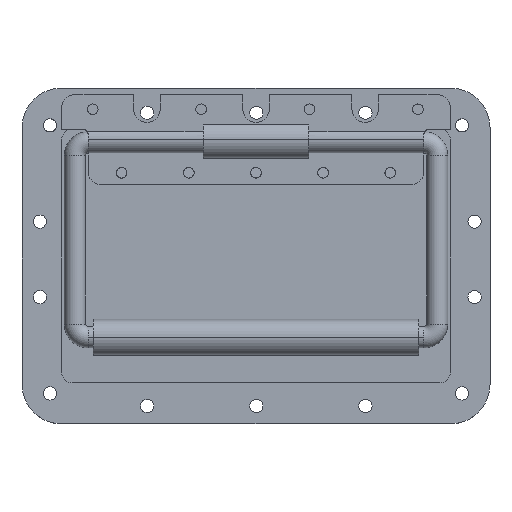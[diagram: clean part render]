
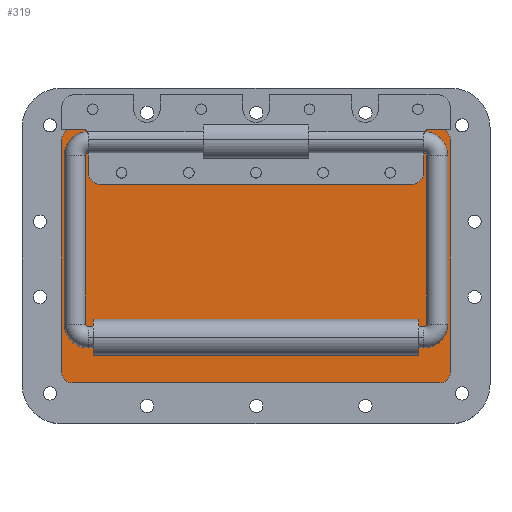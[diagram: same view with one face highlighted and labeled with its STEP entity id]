
A CAD part, top view. The second image highlights one B-rep face of the part: STEP entity #319.
In plain terms, the highlighted planar face has unit normal (0, 0, 1).
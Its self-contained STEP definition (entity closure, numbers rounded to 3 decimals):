
#319=ADVANCED_FACE('',(#691,#692),#693,.T.);
#691=FACE_BOUND('',#1094,.T.);
#692=FACE_OUTER_BOUND('',#1095,.T.);
#693=PLANE('',#1096);
#1094=EDGE_LOOP('',(#2361,#2362,#2363,#2364,#2365,#2366));
#1095=EDGE_LOOP('',(#2367,#2368,#2369,#2370,#2371,#2372,#2373,#2374));
#1096=AXIS2_PLACEMENT_3D('',#2375,#2376,#2377);
#2361=ORIENTED_EDGE('',*,*,#2795,.T.);
#2362=ORIENTED_EDGE('',*,*,#2801,.T.);
#2363=ORIENTED_EDGE('',*,*,#2804,.T.);
#2364=ORIENTED_EDGE('',*,*,#2902,.T.);
#2365=ORIENTED_EDGE('',*,*,#2896,.T.);
#2366=ORIENTED_EDGE('',*,*,#2889,.T.);
#2367=ORIENTED_EDGE('',*,*,#2998,.F.);
#2368=ORIENTED_EDGE('',*,*,#2988,.F.);
#2369=ORIENTED_EDGE('',*,*,#2999,.F.);
#2370=ORIENTED_EDGE('',*,*,#2991,.F.);
#2371=ORIENTED_EDGE('',*,*,#3000,.F.);
#2372=ORIENTED_EDGE('',*,*,#2994,.F.);
#2373=ORIENTED_EDGE('',*,*,#3001,.F.);
#2374=ORIENTED_EDGE('',*,*,#2996,.F.);
#2375=CARTESIAN_POINT('',(0.0,63.5,-14.76));
#2376=DIRECTION('',(0.0,0.0,1.0));
#2377=DIRECTION('',(1.0,0.0,0.0));
#2795=EDGE_CURVE('',#3425,#3426,#3427,.T.);
#2801=EDGE_CURVE('',#3426,#3435,#3437,.T.);
#2804=EDGE_CURVE('',#3435,#3440,#3442,.T.);
#2889=EDGE_CURVE('',#3571,#3425,#3572,.T.);
#2896=EDGE_CURVE('',#3581,#3571,#3582,.T.);
#2902=EDGE_CURVE('',#3440,#3581,#3589,.T.);
#2988=EDGE_CURVE('',#3704,#3702,#3706,.T.);
#2991=EDGE_CURVE('',#3709,#3707,#3711,.T.);
#2994=EDGE_CURVE('',#3714,#3712,#3716,.T.);
#2996=EDGE_CURVE('',#3717,#3719,#3720,.T.);
#2998=EDGE_CURVE('',#3702,#3717,#3722,.T.);
#2999=EDGE_CURVE('',#3707,#3704,#3723,.T.);
#3000=EDGE_CURVE('',#3712,#3709,#3724,.T.);
#3001=EDGE_CURVE('',#3719,#3714,#3725,.T.);
#3425=VERTEX_POINT('',#4296);
#3426=VERTEX_POINT('',#4297);
#3427=CIRCLE('',#4298,5.0);
#3435=VERTEX_POINT('',#4309);
#3437=LINE('',#4312,#4313);
#3440=VERTEX_POINT('',#4316);
#3442=CIRCLE('',#4319,5.0);
#3571=VERTEX_POINT('',#4508);
#3572=LINE('',#4509,#4510);
#3581=VERTEX_POINT('',#4528);
#3582=LINE('',#4529,#4530);
#3589=LINE('',#4541,#4542);
#3702=VERTEX_POINT('',#4692);
#3704=VERTEX_POINT('',#4695);
#3706=CIRCLE('',#4698,4.0);
#3707=VERTEX_POINT('',#4699);
#3709=VERTEX_POINT('',#4702);
#3711=CIRCLE('',#4705,4.0);
#3712=VERTEX_POINT('',#4706);
#3714=VERTEX_POINT('',#4709);
#3716=CIRCLE('',#4712,4.0);
#3717=VERTEX_POINT('',#4713);
#3719=VERTEX_POINT('',#4716);
#3720=CIRCLE('',#4717,4.0);
#3722=LINE('',#4720,#4721);
#3723=LINE('',#4722,#4723);
#3724=LINE('',#4724,#4725);
#3725=LINE('',#4726,#4727);
#4296=CARTESIAN_POINT('',(63.5,95.5,-14.76));
#4297=CARTESIAN_POINT('',(58.5,90.5,-14.76));
#4298=AXIS2_PLACEMENT_3D('',#5215,#5216,#5217);
#4309=CARTESIAN_POINT('',(-58.5,90.5,-14.76));
#4312=CARTESIAN_POINT('',(36.75,90.5,-14.76));
#4313=VECTOR('',#5225,1.0);
#4316=CARTESIAN_POINT('',(-63.5,95.5,-14.76));
#4319=AXIS2_PLACEMENT_3D('',#5230,#5231,#5232);
#4508=CARTESIAN_POINT('',(63.5,103.5,-14.76));
#4509=CARTESIAN_POINT('',(63.5,81.5,-14.76));
#4510=VECTOR('',#5376,1.0);
#4528=CARTESIAN_POINT('',(-63.5,103.5,-14.76));
#4529=CARTESIAN_POINT('',(36.75,103.5,-14.76));
#4530=VECTOR('',#5388,1.0);
#4541=CARTESIAN_POINT('',(-63.5,81.5,-14.76));
#4542=VECTOR('',#5396,1.0);
#4692=CARTESIAN_POINT('',(69.5,15.5,-14.76));
#4695=CARTESIAN_POINT('',(73.5,19.5,-14.76));
#4698=AXIS2_PLACEMENT_3D('',#5574,#5575,#5576);
#4699=CARTESIAN_POINT('',(73.5,107.5,-14.76));
#4702=CARTESIAN_POINT('',(69.5,111.5,-14.76));
#4705=AXIS2_PLACEMENT_3D('',#5579,#5580,#5581);
#4706=CARTESIAN_POINT('',(-69.5,111.5,-14.76));
#4709=CARTESIAN_POINT('',(-73.5,107.5,-14.76));
#4712=AXIS2_PLACEMENT_3D('',#5584,#5585,#5586);
#4713=CARTESIAN_POINT('',(-69.5,15.5,-14.76));
#4716=CARTESIAN_POINT('',(-73.5,19.5,-14.76));
#4717=AXIS2_PLACEMENT_3D('',#5588,#5589,#5590);
#4720=CARTESIAN_POINT('',(0.0,15.5,-14.76));
#4721=VECTOR('',#5592,1.0);
#4722=CARTESIAN_POINT('',(73.5,63.5,-14.76));
#4723=VECTOR('',#5593,1.0);
#4724=CARTESIAN_POINT('',(0.0,111.5,-14.76));
#4725=VECTOR('',#5594,1.0);
#4726=CARTESIAN_POINT('',(-73.5,63.5,-14.76));
#4727=VECTOR('',#5595,1.0);
#5215=CARTESIAN_POINT('',(58.5,95.5,-14.76));
#5216=DIRECTION('',(0.0,0.0,-1.0));
#5217=DIRECTION('',(0.,-1.0,0.0));
#5225=DIRECTION('',(-1.0,0.0,0.0));
#5230=CARTESIAN_POINT('',(-58.5,95.5,-14.76));
#5231=DIRECTION('',(0.0,0.0,-1.0));
#5232=DIRECTION('',(-1.0,0.,0.0));
#5376=DIRECTION('',(0.0,-1.0,0.0));
#5388=DIRECTION('',(1.0,0.0,0.0));
#5396=DIRECTION('',(0.0,1.0,0.0));
#5574=CARTESIAN_POINT('',(69.5,19.5,-14.76));
#5575=DIRECTION('',(0.0,0.0,-1.0));
#5576=DIRECTION('',(1.0,0.0,0.0));
#5579=CARTESIAN_POINT('',(69.5,107.5,-14.76));
#5580=DIRECTION('',(0.0,0.0,-1.0));
#5581=DIRECTION('',(1.0,0.0,0.0));
#5584=CARTESIAN_POINT('',(-69.5,107.5,-14.76));
#5585=DIRECTION('',(0.0,0.0,-1.0));
#5586=DIRECTION('',(1.0,0.0,0.0));
#5588=CARTESIAN_POINT('',(-69.5,19.5,-14.76));
#5589=DIRECTION('',(0.0,0.0,-1.0));
#5590=DIRECTION('',(1.0,0.0,0.0));
#5592=DIRECTION('',(-1.0,0.0,0.0));
#5593=DIRECTION('',(0.0,-1.0,0.0));
#5594=DIRECTION('',(1.0,0.0,0.0));
#5595=DIRECTION('',(0.0,1.0,0.0));
